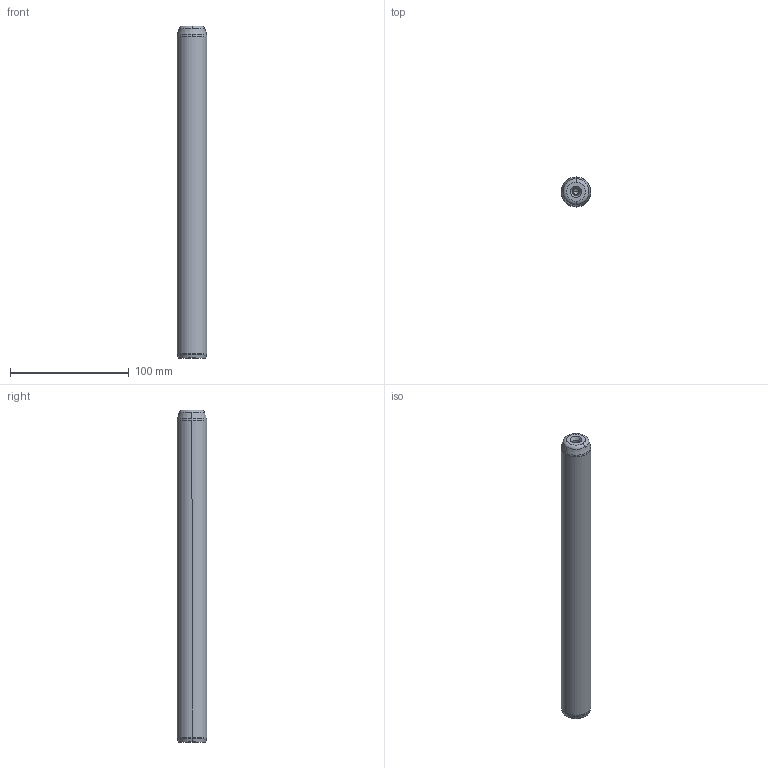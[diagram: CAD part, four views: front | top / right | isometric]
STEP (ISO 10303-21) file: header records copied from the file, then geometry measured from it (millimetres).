
FILE_DESCRIPTION((''),'2;1');
FILE_NAME('P10_025_280.stp','2008-12-23T14:56:17',(''),(''),'Mechanical Desktop 2009','Mechanical Desktop 2009',', , ');
FILE_SCHEMA(('CONFIG_CONTROL_DESIGN'));
Length unit declared in the file: millimetre
Products named in the file (5): Product; ProductAA; blmdl1; ProductA; blmdl1A
Assembly tree (2 placements, depth 3):
  Product
    ProductAA
      blmdl1
  ProductA
  blmdl1A
Bounding box: 25 x 25 x 280 mm (x, y, z)
Volume: 136076 mm3; surface area: 22994.1 mm2
Topology: 1 solids, 1 shells, 26 faces, 66 edges, 41 vertices
Faces by surface type: cone 10, torus 8, cylinder 6, plane 2
Entity records: 1012 total; most frequent: DIRECTION 170, CARTESIAN_POINT 134, ORIENTED_EDGE 128, AXIS2_PLACEMENT_3D 77, EDGE_CURVE 64, CIRCLE 48, VERTEX_POINT 41, EDGE_LOOP 27
